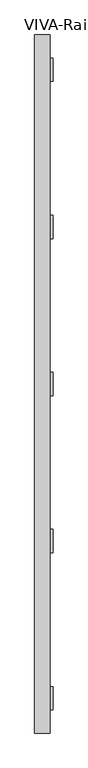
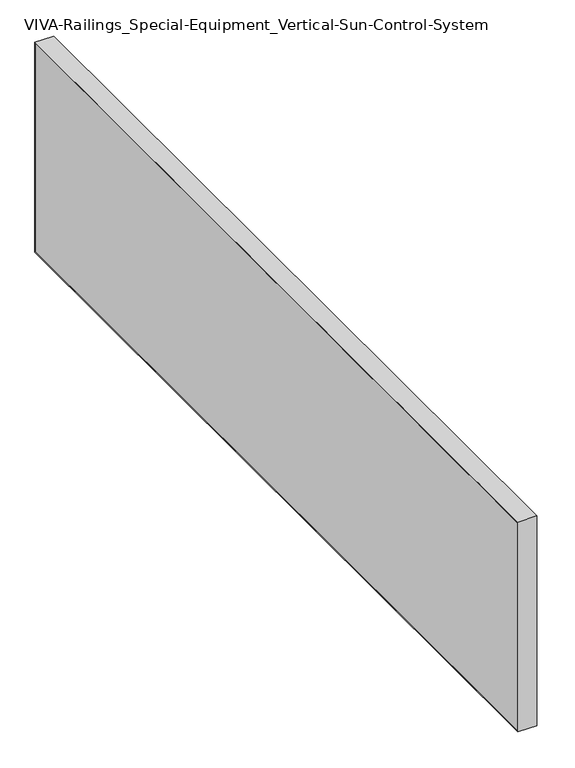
"""IFC4 building model written with IfcOpenShell, lengths in millimetres: proxy geometry, VIVA-Railings_Special-Equipment_Vertical-Sun-Control-System : 2’ 0” x 7’ 6” - Aluminum 1/8''."""

from ifc_helpers import new_model, si_unit, point, frame, frame_2d, origin, place, context, project, spatial, polyline, circle_curve, trimmed, segment, composite_curve, outline, extrude, faceted_brep, source, transform, mapped, element, save


def viva_railings_special_equipment_vertical_sun_control_system_ec77dc1e(model_context):
    return source(origin(), model_context, "Body", "SolidModel", [
        extrude(outline(polyline([(-6.35, 476.25), (-9.525, 476.25), (-9.525, 552.45), (-6.35, 552.45), (-6.35, 476.25)])), frame((0.0, 0.0, 6.35), z_axis=(0.0, 0.0, 1.0), x_axis=(1.0, 0.0, 0.0)), (0.0, 0.0, 1.0), 13.4076266),
        extrude(outline(composite_curve([segment(trimmed(circle_curve(frame_2d((3.175, -6.35)), 3.175), [point((3.175, -9.525))], [point((0.0, -6.35))], False, "CARTESIAN"), True, "CONTINUOUS"), segment(polyline([(0.0, -6.35), (0.0, 47.625), (3.175, 47.625), (3.175, -4.7625)]), True, "CONTINUOUS"), segment(trimmed(circle_curve(frame_2d((4.7625, -4.7625)), 1.5875), [point((3.175, -4.7625))], [point((4.7625, -6.35))], True, "CARTESIAN"), True, "CONTINUOUS"), segment(polyline([(4.7625, -6.35), (3.175, -6.35), (3.175, -9.525)]), True, "CONTINUOUS")], self_intersect=False)), frame((0.0, 476.25, 0.0), z_axis=(0.0, 1.0, 0.0), x_axis=(0.0, 0.0, 1.0)), (0.0, 0.0, 1.0), 76.2),
        extrude(outline(polyline([(-6.35, -38.1), (-9.525, -38.1), (-9.525, 38.1), (-6.35, 38.1), (-6.35, -38.1)])), frame((0.0, 0.0, 6.35), z_axis=(0.0, 0.0, 1.0), x_axis=(1.0, 0.0, 0.0)), (0.0, 0.0, 1.0), 13.4076266),
        extrude(outline(composite_curve([segment(trimmed(circle_curve(frame_2d((3.175, -6.35)), 3.175), [point((3.175, -9.525))], [point((0.0, -6.35))], False, "CARTESIAN"), True, "CONTINUOUS"), segment(polyline([(0.0, -6.35), (0.0, 47.625), (3.175, 47.625), (3.175, -4.7625)]), True, "CONTINUOUS"), segment(trimmed(circle_curve(frame_2d((4.7625, -4.7625)), 1.5875), [point((3.175, -4.7625))], [point((4.7625, -6.35))], True, "CARTESIAN"), True, "CONTINUOUS"), segment(polyline([(4.7625, -6.35), (3.175, -6.35), (3.175, -9.525)]), True, "CONTINUOUS")], self_intersect=False)), frame((0.0, -38.1, 0.0), z_axis=(0.0, 1.0, 0.0), x_axis=(0.0, 0.0, 1.0)), (0.0, 0.0, 1.0), 76.2),
        extrude(outline(polyline([(-9.525, 1139.825), (-9.525, -1139.825), (-12.7, -1139.825), (-12.7, 1139.825), (-9.525, 1139.825)])), frame((0.0, 0.0, 6.35), z_axis=(0.0, 0.0, 1.0), x_axis=(1.0, 0.0, 0.0)), (0.0, 0.0, 1.0), 600.075),
        faceted_brep([(-12.7, -1139.825, 606.425), (38.1, -1139.825, 606.425), (38.1, -1139.825, 6.35), (-12.7, -1139.825, 6.35), (38.1, -1143.0, 609.6), (-12.7, -1143.0, 609.6), (-12.7, -1143.0, 3.175), (38.1, -1143.0, 3.175), (38.1, 1139.825, 6.35), (-12.7, 1139.825, 6.35), (-6.35, 990.6, 6.35), (-9.525, 990.6, 6.35), (-9.525, 1066.8, 6.35), (-6.35, 1066.8, 6.35), (-6.35, -1066.8, 6.35), (-9.525, -1066.8, 6.35), (-9.525, -990.6, 6.35), (-6.35, -990.6, 6.35), (-6.35, -552.45, 6.35), (-9.525, -552.45, 6.35), (-9.525, -476.25, 6.35), (-6.35, -476.25, 6.35), (-6.35, -38.1, 6.35), (-9.525, -38.1, 6.35), (-9.525, 38.1, 6.35), (-6.35, 38.1, 6.35), (-6.35, 476.25, 6.35), (-9.525, 476.25, 6.35), (-9.525, 552.45, 6.35), (-6.35, 552.45, 6.35), (-12.7, 1143.0, 3.175), (38.1, 1143.0, 3.175), (-9.525, 990.6, 3.175), (-6.35, 990.6, 3.175), (-6.35, 1066.8, 3.175), (-9.525, 1066.8, 3.175), (-9.525, -1066.8, 3.175), (-6.35, -1066.8, 3.175), (-6.35, -990.6, 3.175), (-9.525, -990.6, 3.175), (-9.525, -552.45, 3.175), (-6.35, -552.45, 3.175), (-6.35, -476.25, 3.175), (-9.525, -476.25, 3.175), (-9.525, -38.1, 3.175), (-6.35, -38.1, 3.175), (-6.35, 38.1, 3.175), (-9.525, 38.1, 3.175), (-9.525, 476.25, 3.175), (-6.35, 476.25, 3.175), (-6.35, 552.45, 3.175), (-9.525, 552.45, 3.175), (38.1, 1139.825, 606.425), (-12.7, 1139.825, 606.425), (-12.7, 1143.0, 609.6), (38.1, 1143.0, 609.6)], [[[0, 1, 2, 3]], [[4, 5, 6, 7]], [[3, 2, 8, 9], [10, 11, 12, 13], [14, 15, 16, 17], [18, 19, 20, 21], [22, 23, 24, 25], [26, 27, 28, 29]], [[7, 6, 30, 31], [32, 33, 34, 35], [36, 37, 38, 39], [40, 41, 42, 43], [44, 45, 46, 47], [48, 49, 50, 51]], [[9, 8, 52, 53]], [[31, 30, 54, 55]], [[4, 7, 31, 55], [2, 1, 52, 8]], [[1, 0, 53, 52]], [[6, 5, 54, 30], [0, 3, 9, 53]], [[5, 4, 55, 54]], [[10, 33, 32, 11]], [[33, 10, 13, 34]], [[34, 13, 12, 35]], [[11, 32, 35, 12]], [[14, 37, 36, 15]], [[37, 14, 17, 38]], [[38, 17, 16, 39]], [[15, 36, 39, 16]], [[18, 41, 40, 19]], [[41, 18, 21, 42]], [[42, 21, 20, 43]], [[19, 40, 43, 20]], [[22, 45, 44, 23]], [[45, 22, 25, 46]], [[46, 25, 24, 47]], [[23, 44, 47, 24]], [[26, 49, 48, 27]], [[49, 26, 29, 50]], [[50, 29, 28, 51]], [[27, 48, 51, 28]]]),
        extrude(outline(composite_curve([segment(polyline([(19.7576266, -6.35), (19.7576266, -9.525), (3.175, -9.525)]), True, "CONTINUOUS"), segment(trimmed(circle_curve(frame_2d((3.175, -6.35)), 3.175), [point((3.175, -9.525))], [point((0.0, -6.35))], False, "CARTESIAN"), True, "CONTINUOUS"), segment(polyline([(0.0, -6.35), (0.0, 47.625), (3.175, 47.625), (3.175, -4.7625)]), True, "CONTINUOUS"), segment(trimmed(circle_curve(frame_2d((4.7625, -4.7625)), 1.5875), [point((3.175, -4.7625))], [point((4.7625, -6.35))], True, "CARTESIAN"), True, "CONTINUOUS"), segment(polyline([(4.7625, -6.35), (19.7576266, -6.35)]), True, "CONTINUOUS")], self_intersect=False)), frame((0.0, -552.45, 0.0), z_axis=(0.0, 1.0, 0.0), x_axis=(0.0, 0.0, 1.0)), (0.0, 0.0, 1.0), 76.2),
        extrude(outline(composite_curve([segment(polyline([(19.7576266, -6.35), (19.7576266, -9.525), (3.175, -9.525)]), True, "CONTINUOUS"), segment(trimmed(circle_curve(frame_2d((3.175, -6.35)), 3.175), [point((3.175, -9.525))], [point((0.0, -6.35))], False, "CARTESIAN"), True, "CONTINUOUS"), segment(polyline([(0.0, -6.35), (0.0, 47.625), (3.175, 47.625), (3.175, -4.7625)]), True, "CONTINUOUS"), segment(trimmed(circle_curve(frame_2d((4.7625, -4.7625)), 1.5875), [point((3.175, -4.7625))], [point((4.7625, -6.35))], True, "CARTESIAN"), True, "CONTINUOUS"), segment(polyline([(4.7625, -6.35), (19.7576266, -6.35)]), True, "CONTINUOUS")], self_intersect=False)), frame((0.0, 990.6, 0.0), z_axis=(0.0, 1.0, 0.0), x_axis=(0.0, 0.0, 1.0)), (0.0, 0.0, 1.0), 76.2),
        extrude(outline(composite_curve([segment(polyline([(19.7576266, -6.35), (19.7576266, -9.525), (3.175, -9.525)]), True, "CONTINUOUS"), segment(trimmed(circle_curve(frame_2d((3.175, -6.35)), 3.175), [point((3.175, -9.525))], [point((0.0, -6.35))], False, "CARTESIAN"), True, "CONTINUOUS"), segment(polyline([(0.0, -6.35), (0.0, 47.625), (3.175, 47.625), (3.175, -4.7625)]), True, "CONTINUOUS"), segment(trimmed(circle_curve(frame_2d((4.7625, -4.7625)), 1.5875), [point((3.175, -4.7625))], [point((4.7625, -6.35))], True, "CARTESIAN"), True, "CONTINUOUS"), segment(polyline([(4.7625, -6.35), (19.7576266, -6.35)]), True, "CONTINUOUS")], self_intersect=False)), frame((0.0, -1066.8, 0.0), z_axis=(0.0, 1.0, 0.0), x_axis=(0.0, 0.0, 1.0)), (0.0, 0.0, 1.0), 76.2),
    ])


if __name__ == "__main__":
    model = new_model("IFC4")
    model_context = context("Model", 3, world=origin())
    ifc_project = project(units=[si_unit("LENGTHUNIT", "METRE", prefix="MILLI")], contexts=[model_context])
    site = spatial("IfcSite", under=ifc_project)
    building = spatial("IfcBuilding", under=site)
    placement = place(None, origin())
    viva_railings_special_equipment_vertical_sun_control_system_shape = viva_railings_special_equipment_vertical_sun_control_system_ec77dc1e(model_context)
    element("IfcBuildingElementProxy", 1, Name="VIVA-Railings_Special-Equipment_Vertical-Sun-Control-System : 2’ 0” x 7’ 6” - Aluminum 1/8''", ObjectType="VIVA-Railings_Special-Equipment_Vertical-Sun-Control-System : 2’ 0” x 7’ 6” - Aluminum 1/8''", at=placement, inside=building, context=model_context, shape_type="MappedRepresentation", body=[
        mapped(viva_railings_special_equipment_vertical_sun_control_system_shape, transform((0.0, 0.0, 0.0), x_axis=(1.0, 0.0, 0.0), y_axis=(0.0, 1.0, 0.0), z_axis=(0.0, 0.0, 1.0))),
    ])
    save(model, "model.ifc")
